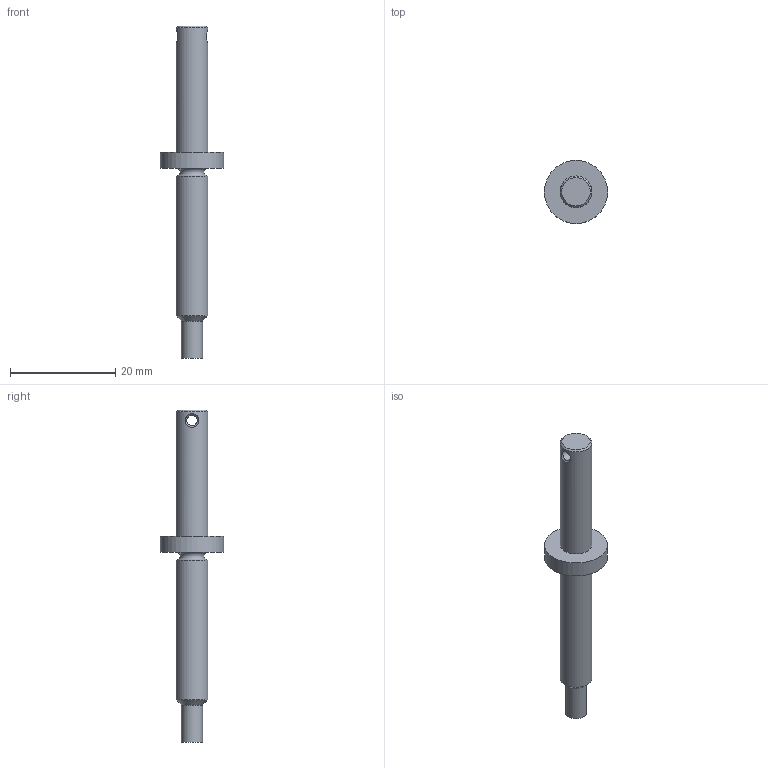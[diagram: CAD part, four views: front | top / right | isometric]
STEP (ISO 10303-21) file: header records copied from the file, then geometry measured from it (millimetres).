
FILE_DESCRIPTION(/* description */ ('Mendrel'),/* implementation_level */ '2;1');
FILE_NAME(/* name */ 'Z:\Werkstatt Server\Projekte\Atlas\Entwicklung u. Konstruktion\Konstruktion\CAD Daten\ITkPixToolV2.0\Baremodule Jig\ITPTv2.01.00.16.stp',/* time_stamp */ '2021-08-06T14:55:32+02:00',/* author */ ('Tim Kanngießer'),/* organization */ (''),/* preprocessor_version */ 'ST-DEVELOPER v18.1',/* originating_system */ 'Autodesk Inventor 2022',/* authorisation */ '');
FILE_SCHEMA (('AUTOMOTIVE_DESIGN { 1 0 10303 214 3 1 1 }'));
Length unit declared in the file: millimetre
Products named in the file (1): ITPTv2.01.00.16
Bounding box: 12 x 12 x 63 mm (x, y, z)
Volume: 1882.5 mm3; surface area: 1447.2 mm2
Topology: 1 solids, 1 shells, 14 faces, 30 edges, 20 vertices
Faces by surface type: cylinder 5, plane 4, bspline 2, cone 2, torus 1
Full cylindrical faces by diameter (mm): 2 x1, 4 x1, 6 x2, 12 x1
Entity records: 817 total; most frequent: CARTESIAN_POINT 457, DIRECTION 65, ORIENTED_EDGE 60, EDGE_CURVE 30, AXIS2_PLACEMENT_3D 28, VERTEX_POINT 20, EDGE_LOOP 18, CIRCLE 15
